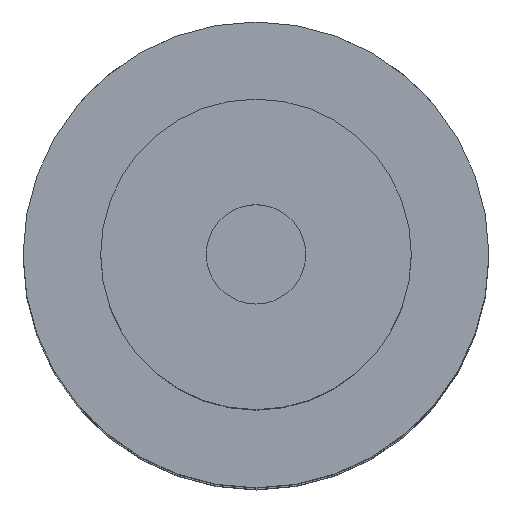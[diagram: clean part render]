
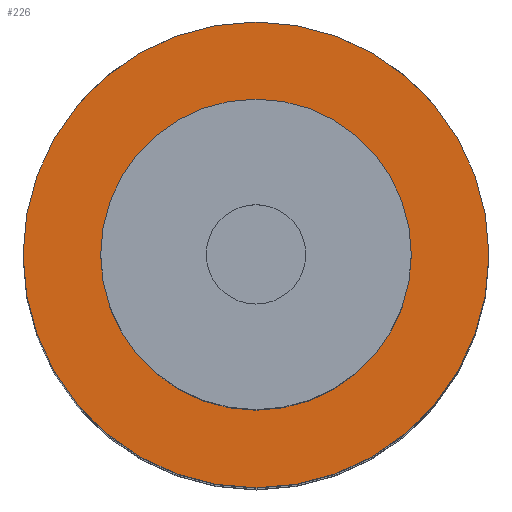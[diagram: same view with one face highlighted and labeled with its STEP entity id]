
A CAD part, top view. The second image highlights one B-rep face of the part: STEP entity #226.
In plain terms, the highlighted planar face has unit normal (0, 0, 1).
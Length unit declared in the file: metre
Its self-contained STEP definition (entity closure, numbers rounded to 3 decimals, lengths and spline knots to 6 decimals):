
#18=PLANE('',#265);
#70=ORIENTED_EDGE('',*,*,#104,.F.);
#71=ORIENTED_EDGE('',*,*,#88,.T.);
#88=EDGE_CURVE('',#112,#112,#132,.T.);
#104=EDGE_CURVE('',#124,#124,#140,.T.);
#112=VERTEX_POINT('',#364);
#124=VERTEX_POINT('',#400);
#132=CIRCLE('',#250,0.0075);
#140=CIRCLE('',#266,0.005);
#162=EDGE_LOOP('',(#70));
#163=EDGE_LOOP('',(#71));
#194=FACE_BOUND('',#162,.T.);
#195=FACE_BOUND('',#163,.T.);
#226=ADVANCED_FACE('',(#194,#195),#18,.T.);
#250=AXIS2_PLACEMENT_3D('',#363,#287,#288);
#265=AXIS2_PLACEMENT_3D('',#398,#325,#326);
#266=AXIS2_PLACEMENT_3D('',#399,#327,#328);
#287=DIRECTION('',(0.,0.,1.));
#288=DIRECTION('',(1.,0.,0.));
#325=DIRECTION('',(0.,0.,1.));
#326=DIRECTION('',(1.,0.,0.));
#327=DIRECTION('',(0.,0.,1.));
#328=DIRECTION('',(1.,0.,0.));
#363=CARTESIAN_POINT('',(0.,0.,0.05));
#364=CARTESIAN_POINT('',(0.0075,0.,0.05));
#398=CARTESIAN_POINT('',(0.,0.,0.05));
#399=CARTESIAN_POINT('',(0.,0.,0.05));
#400=CARTESIAN_POINT('',(0.005,0.,0.05));
